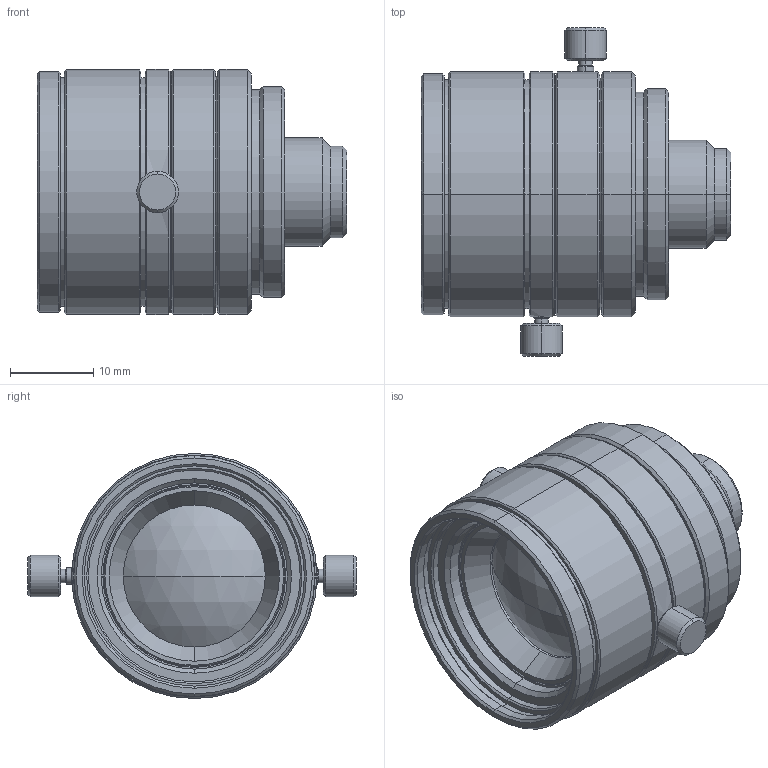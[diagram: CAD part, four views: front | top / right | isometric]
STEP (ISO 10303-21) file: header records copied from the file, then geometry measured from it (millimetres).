
FILE_DESCRIPTION (( 'STEP AP203' ), '1' );
FILE_NAME ('VS-LDA6.5.STEP', '2017-01-05T01:01:56', ( '' ), ( '' ), 'SwSTEP 2.0', 'SolidWorks 2017', '' );
FILE_SCHEMA (( 'CONFIG_CONTROL_DESIGN' ));
Length unit declared in the file: millimetre
Products named in the file (1): VS-LDA6.5
Bounding box: 37.29 x 39.55 x 29.5 mm (x, y, z)
Volume: 15778.3 mm3; surface area: 7874.8 mm2
Topology: 1 solids, 1 shells, 184 faces, 370 edges, 218 vertices
Faces by surface type: cone 86, cylinder 64, plane 30, sphere 4
Entity records: 4915 total; most frequent: DIRECTION 952, CARTESIAN_POINT 837, ORIENTED_EDGE 740, AXIS2_PLACEMENT_3D 401, EDGE_CURVE 370, VERTEX_POINT 218, CIRCLE 216, EDGE_LOOP 214
